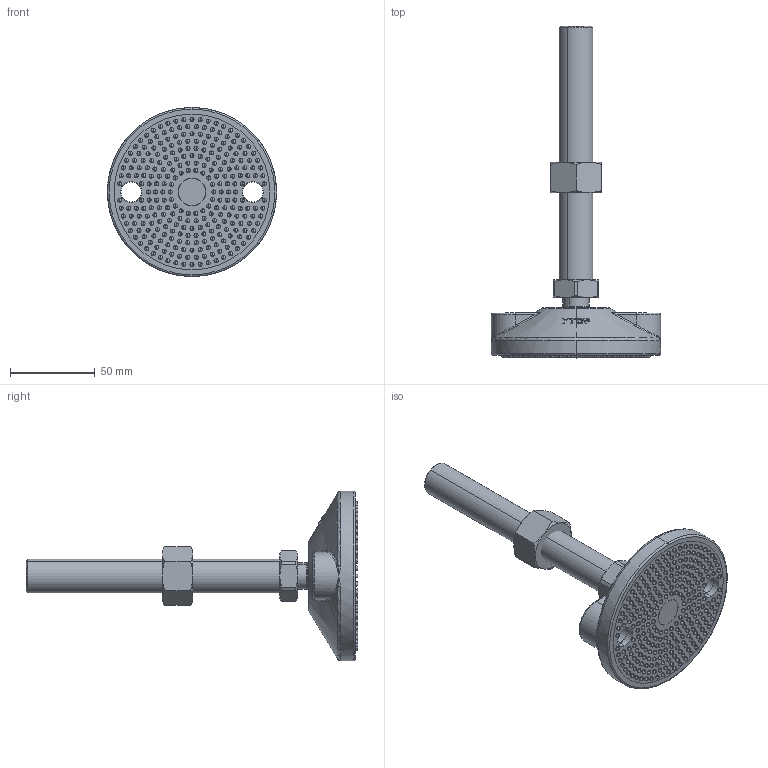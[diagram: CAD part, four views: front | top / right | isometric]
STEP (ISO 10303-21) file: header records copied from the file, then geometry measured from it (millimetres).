
FILE_DESCRIPTION (( 'STEP AP203' ), '1' );
FILE_NAME ('G-100-20150-PA.STEP', '2020-09-08T08:27:12', ( '' ), ( '' ), 'SwSTEP 2.0', 'SolidWorks 2016', '' );
FILE_SCHEMA (( 'CONFIG_CONTROL_DESIGN' ));
Length unit declared in the file: millimetre
Products named in the file (5): GB╱T 6170-2000[1型六角螺母 A级和B级M20]_M64; G100菁釱; 球头螺杆M20系列_M20X150; G100菁菜; G-100-20150-PA
Assembly tree (4 placements, depth 2):
  G-100-20150-PA
    G100菁釱
    G100菁菜
    GB╱T 6170-2000[1型六角螺母 A级和B级M20]_M64
    球头螺杆M20系列_M20X150
Bounding box: 100 x 196.12 x 100 mm (x, y, z)
Volume: 188081.3 mm3; surface area: 64184.7 mm2
Topology: 4 solids, 4 shells, 1339 faces, 3906 edges, 2302 vertices
Faces by surface type: cylinder 601, sphere 562, bspline 62, plane 50, cone 45, torus 19
Entity records: 41476 total; most frequent: CARTESIAN_POINT 11223, DIRECTION 7024, ORIENTED_EDGE 5594, AXIS2_PLACEMENT_3D 3175, EDGE_CURVE 2797, CIRCLE 1891, VERTEX_POINT 1751, EDGE_LOOP 1636
